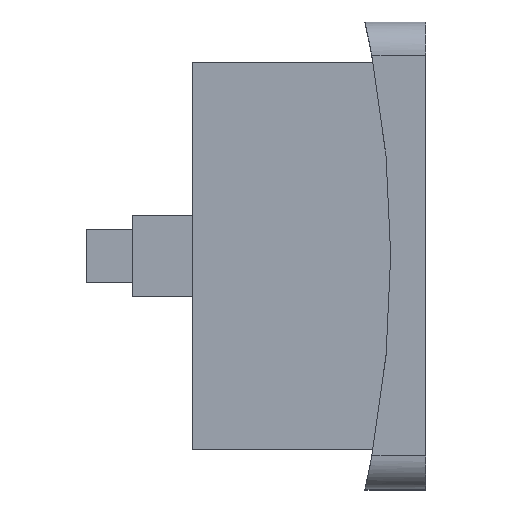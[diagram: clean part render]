
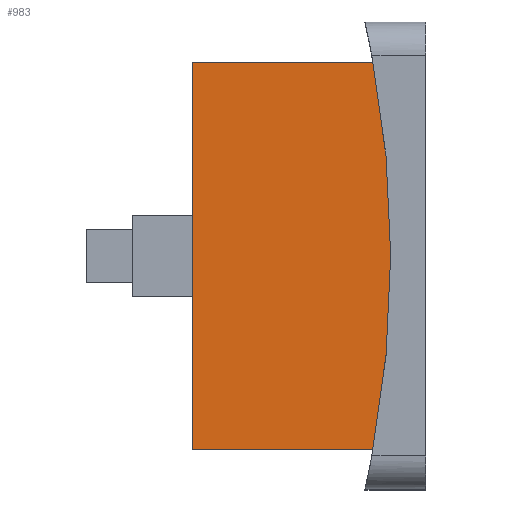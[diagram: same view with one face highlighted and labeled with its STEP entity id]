
A CAD part, top view. The second image highlights one B-rep face of the part: STEP entity #983.
In plain terms, the highlighted planar face has unit normal (0, 0, 1).
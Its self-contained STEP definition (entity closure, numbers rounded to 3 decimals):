
#44 = PLANE('',#45);
#45 = AXIS2_PLACEMENT_3D('',#46,#47,#48);
#46 = CARTESIAN_POINT('',(26.2,0.,9.4));
#47 = DIRECTION('',(1.,0.,0.));
#48 = DIRECTION('',(-0.,0.,1.));
#72 = PLANE('',#73);
#73 = AXIS2_PLACEMENT_3D('',#74,#75,#76);
#74 = CARTESIAN_POINT('',(26.2,-5.8,14.55));
#75 = DIRECTION('',(-0.,1.,0.));
#76 = DIRECTION('',(0.,0.,-1.));
#105 = CYLINDRICAL_SURFACE('',#106,32.15);
#106 = AXIS2_PLACEMENT_3D('',#107,#108,#109);
#107 = CARTESIAN_POINT('',(0.,0.,-5.));
#108 = DIRECTION('',(-0.,-0.,-1.));
#109 = DIRECTION('',(1.,0.,0.));
#131 = PLANE('',#132);
#132 = AXIS2_PLACEMENT_3D('',#133,#134,#135);
#133 = CARTESIAN_POINT('',(26.2,5.8,4.25));
#134 = DIRECTION('',(0.,-1.,0.));
#135 = DIRECTION('',(0.,0.,1.));
#148 = VERTEX_POINT('',#149);
#149 = CARTESIAN_POINT('',(26.2,5.8,14.55));
#170 = EDGE_CURVE('',#148,#171,#173,.T.);
#171 = VERTEX_POINT('',#172);
#172 = CARTESIAN_POINT('',(26.2,-5.8,14.55));
#173 = SURFACE_CURVE('',#174,(#178,#185),.PCURVE_S1.);
#174 = LINE('',#175,#176);
#175 = CARTESIAN_POINT('',(26.2,5.8,14.55));
#176 = VECTOR('',#177,1.);
#177 = DIRECTION('',(0.,-1.,0.));
#178 = PCURVE('',#44,#179);
#179 = DEFINITIONAL_REPRESENTATION('',(#180),#184);
#180 = LINE('',#181,#182);
#181 = CARTESIAN_POINT('',(5.15,-5.8));
#182 = VECTOR('',#183,1.);
#183 = DIRECTION('',(0.,1.));
#184 = ( GEOMETRIC_REPRESENTATION_CONTEXT(2) 
PARAMETRIC_REPRESENTATION_CONTEXT() REPRESENTATION_CONTEXT('2D SPACE',''
  ) );
#185 = PCURVE('',#186,#191);
#186 = PLANE('',#187);
#187 = AXIS2_PLACEMENT_3D('',#188,#189,#190);
#188 = CARTESIAN_POINT('',(26.2,5.8,14.55));
#189 = DIRECTION('',(0.,0.,-1.));
#190 = DIRECTION('',(0.,-1.,0.));
#191 = DEFINITIONAL_REPRESENTATION('',(#192),#196);
#192 = LINE('',#193,#194);
#193 = CARTESIAN_POINT('',(0.,-0.));
#194 = VECTOR('',#195,1.);
#195 = DIRECTION('',(1.,0.));
#196 = ( GEOMETRIC_REPRESENTATION_CONTEXT(2) 
PARAMETRIC_REPRESENTATION_CONTEXT() REPRESENTATION_CONTEXT('2D SPACE',''
  ) );
#553 = VERTEX_POINT('',#554);
#554 = CARTESIAN_POINT('',(31.622,5.8,14.55));
#573 = EDGE_CURVE('',#148,#553,#574,.T.);
#574 = SURFACE_CURVE('',#575,(#579,#586),.PCURVE_S1.);
#575 = LINE('',#576,#577);
#576 = CARTESIAN_POINT('',(26.2,5.8,14.55));
#577 = VECTOR('',#578,1.);
#578 = DIRECTION('',(1.,0.,0.));
#579 = PCURVE('',#131,#580);
#580 = DEFINITIONAL_REPRESENTATION('',(#581),#585);
#581 = LINE('',#582,#583);
#582 = CARTESIAN_POINT('',(10.3,0.));
#583 = VECTOR('',#584,1.);
#584 = DIRECTION('',(0.,-1.));
#585 = ( GEOMETRIC_REPRESENTATION_CONTEXT(2) 
PARAMETRIC_REPRESENTATION_CONTEXT() REPRESENTATION_CONTEXT('2D SPACE',''
  ) );
#586 = PCURVE('',#186,#587);
#587 = DEFINITIONAL_REPRESENTATION('',(#588),#592);
#588 = LINE('',#589,#590);
#589 = CARTESIAN_POINT('',(0.,-0.));
#590 = VECTOR('',#591,1.);
#591 = DIRECTION('',(0.,-1.));
#592 = ( GEOMETRIC_REPRESENTATION_CONTEXT(2) 
PARAMETRIC_REPRESENTATION_CONTEXT() REPRESENTATION_CONTEXT('2D SPACE',''
  ) );
#914 = EDGE_CURVE('',#553,#915,#917,.T.);
#915 = VERTEX_POINT('',#916);
#916 = CARTESIAN_POINT('',(31.622,-5.8,14.55));
#917 = SURFACE_CURVE('',#918,(#923,#930),.PCURVE_S1.);
#918 = CIRCLE('',#919,32.15);
#919 = AXIS2_PLACEMENT_3D('',#920,#921,#922);
#920 = CARTESIAN_POINT('',(0.,0.,14.55));
#921 = DIRECTION('',(0.,0.,-1.));
#922 = DIRECTION('',(1.,0.,0.));
#923 = PCURVE('',#105,#924);
#924 = DEFINITIONAL_REPRESENTATION('',(#925),#929);
#925 = LINE('',#926,#927);
#926 = CARTESIAN_POINT('',(-12.566,-19.55));
#927 = VECTOR('',#928,1.);
#928 = DIRECTION('',(1.,-0.));
#929 = ( GEOMETRIC_REPRESENTATION_CONTEXT(2) 
PARAMETRIC_REPRESENTATION_CONTEXT() REPRESENTATION_CONTEXT('2D SPACE',''
  ) );
#930 = PCURVE('',#186,#931);
#931 = DEFINITIONAL_REPRESENTATION('',(#932),#936);
#932 = CIRCLE('',#933,32.15);
#933 = AXIS2_PLACEMENT_2D('',#934,#935);
#934 = CARTESIAN_POINT('',(5.8,26.2));
#935 = DIRECTION('',(0.,-1.));
#936 = ( GEOMETRIC_REPRESENTATION_CONTEXT(2) 
PARAMETRIC_REPRESENTATION_CONTEXT() REPRESENTATION_CONTEXT('2D SPACE',''
  ) );
#961 = EDGE_CURVE('',#171,#915,#962,.T.);
#962 = SURFACE_CURVE('',#963,(#967,#974),.PCURVE_S1.);
#963 = LINE('',#964,#965);
#964 = CARTESIAN_POINT('',(26.2,-5.8,14.55));
#965 = VECTOR('',#966,1.);
#966 = DIRECTION('',(1.,0.,0.));
#967 = PCURVE('',#72,#968);
#968 = DEFINITIONAL_REPRESENTATION('',(#969),#973);
#969 = LINE('',#970,#971);
#970 = CARTESIAN_POINT('',(0.,0.));
#971 = VECTOR('',#972,1.);
#972 = DIRECTION('',(0.,-1.));
#973 = ( GEOMETRIC_REPRESENTATION_CONTEXT(2) 
PARAMETRIC_REPRESENTATION_CONTEXT() REPRESENTATION_CONTEXT('2D SPACE',''
  ) );
#974 = PCURVE('',#186,#975);
#975 = DEFINITIONAL_REPRESENTATION('',(#976),#980);
#976 = LINE('',#977,#978);
#977 = CARTESIAN_POINT('',(11.6,0.));
#978 = VECTOR('',#979,1.);
#979 = DIRECTION('',(0.,-1.));
#980 = ( GEOMETRIC_REPRESENTATION_CONTEXT(2) 
PARAMETRIC_REPRESENTATION_CONTEXT() REPRESENTATION_CONTEXT('2D SPACE',''
  ) );
#983 = ADVANCED_FACE('',(#984),#186,.F.);
#984 = FACE_BOUND('',#985,.F.);
#985 = EDGE_LOOP('',(#986,#987,#988,#989));
#986 = ORIENTED_EDGE('',*,*,#170,.F.);
#987 = ORIENTED_EDGE('',*,*,#573,.T.);
#988 = ORIENTED_EDGE('',*,*,#914,.T.);
#989 = ORIENTED_EDGE('',*,*,#961,.F.);
